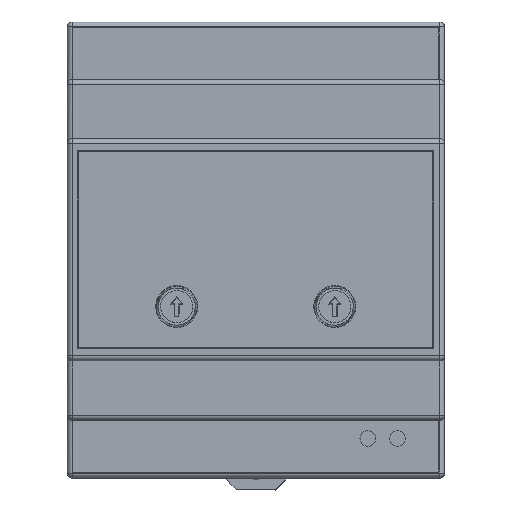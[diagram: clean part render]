
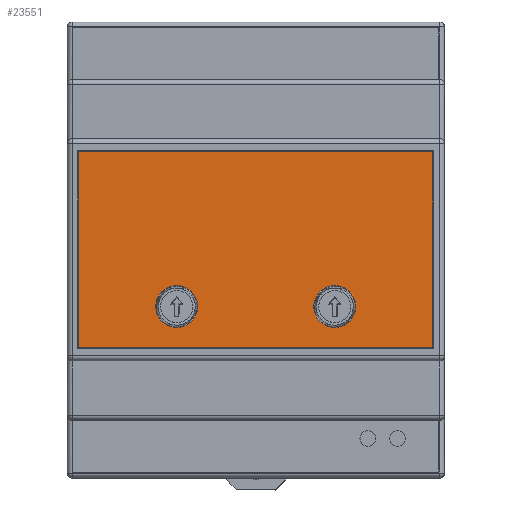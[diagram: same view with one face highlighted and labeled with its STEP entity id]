
A CAD part, top view. The second image highlights one B-rep face of the part: STEP entity #23551.
In plain terms, the highlighted planar face has unit normal (0, 0, 1).
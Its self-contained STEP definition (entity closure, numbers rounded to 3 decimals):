
#39 = CIRCLE ( 'NONE', #3892, 4.25 ) ;
#499 = CIRCLE ( 'NONE', #56372, 4.25 ) ;
#1184 = ORIENTED_EDGE ( 'NONE', *, *, #49817, .T. ) ;
#2115 = LINE ( 'NONE', #16640, #28892 ) ;
#3892 = AXIS2_PLACEMENT_3D ( 'NONE', #12885, #46013, #8937 ) ;
#8304 = VERTEX_POINT ( 'NONE', #44589 ) ;
#8937 = DIRECTION ( 'NONE',  ( 1., 0., 0. ) ) ;
#9464 = CARTESIAN_POINT ( 'NONE',  ( -35.91, -19.823, 57.102 ) ) ;
#9544 = CIRCLE ( 'NONE', #24031, 4.25 ) ;
#10236 = LINE ( 'NONE', #56617, #57075 ) ;
#10529 = DIRECTION ( 'NONE',  ( -1., 0., 0. ) ) ;
#11342 = DIRECTION ( 'NONE',  ( -1., 0., 0. ) ) ;
#12885 = CARTESIAN_POINT ( 'NONE',  ( 15.94, -11.504, 57.102 ) ) ;
#13672 = CARTESIAN_POINT ( 'NONE',  ( -35.91, 19.833, 57.102 ) ) ;
#13674 = ORIENTED_EDGE ( 'NONE', *, *, #39230, .T. ) ;
#14772 = CARTESIAN_POINT ( 'NONE',  ( 0., 0., 57.102 ) ) ;
#14873 = DIRECTION ( 'NONE',  ( 1., 0., 0. ) ) ;
#15502 = CARTESIAN_POINT ( 'NONE',  ( 15.94, -11.504, 57.102 ) ) ;
#15710 = VERTEX_POINT ( 'NONE', #38987 ) ;
#16235 = ORIENTED_EDGE ( 'NONE', *, *, #49489, .T. ) ;
#16640 = CARTESIAN_POINT ( 'NONE',  ( -35.91, 19.833, 57.102 ) ) ;
#19027 = FACE_BOUND ( 'NONE', #20614, .T. ) ;
#19053 = ORIENTED_EDGE ( 'NONE', *, *, #34879, .T. ) ;
#19956 = CARTESIAN_POINT ( 'NONE',  ( 11.69, -11.504, 57.102 ) ) ;
#20031 = ORIENTED_EDGE ( 'NONE', *, *, #45333, .T. ) ;
#20105 = VERTEX_POINT ( 'NONE', #27313 ) ;
#20563 = DIRECTION ( 'NONE',  ( 0., -1., 0. ) ) ;
#20614 = EDGE_LOOP ( 'NONE', ( #16235, #20031 ) ) ;
#21768 = CIRCLE ( 'NONE', #55353, 4.25 ) ;
#22210 = CARTESIAN_POINT ( 'NONE',  ( 20.19, -11.504, 57.102 ) ) ;
#23551 = ADVANCED_FACE ( 'NONE', ( #19027, #55097, #37415 ), #37695, .T. ) ;
#23997 = LINE ( 'NONE', #32404, #36373 ) ;
#24031 = AXIS2_PLACEMENT_3D ( 'NONE', #15502, #32725, #33887 ) ;
#24277 = DIRECTION ( 'NONE',  ( 0., 1., 0. ) ) ;
#25835 = CARTESIAN_POINT ( 'NONE',  ( -16.06, -11.504, 57.102 ) ) ;
#27313 = CARTESIAN_POINT ( 'NONE',  ( -35.91, -19.823, 57.102 ) ) ;
#28892 = VECTOR ( 'NONE', #20563, 1000. ) ;
#29553 = VERTEX_POINT ( 'NONE', #19956 ) ;
#30821 = ORIENTED_EDGE ( 'NONE', *, *, #43037, .T. ) ;
#32368 = VERTEX_POINT ( 'NONE', #41440 ) ;
#32404 = CARTESIAN_POINT ( 'NONE',  ( 35.8, -19.823, 57.102 ) ) ;
#32462 = DIRECTION ( 'NONE',  ( 0., 0., -1. ) ) ;
#32725 = DIRECTION ( 'NONE',  ( 0., 0., -1. ) ) ;
#33887 = DIRECTION ( 'NONE',  ( -1., 0., 0. ) ) ;
#34772 = ORIENTED_EDGE ( 'NONE', *, *, #59286, .T. ) ;
#34879 = EDGE_CURVE ( 'NONE', #40294, #50477, #10236, .T. ) ;
#36373 = VECTOR ( 'NONE', #24277, 1000. ) ;
#37415 = FACE_OUTER_BOUND ( 'NONE', #45635, .T. ) ;
#37560 = AXIS2_PLACEMENT_3D ( 'NONE', #14772, #50599, #56335 ) ;
#37695 = PLANE ( 'NONE',  #37560 ) ;
#38987 = CARTESIAN_POINT ( 'NONE',  ( -20.31, -11.504, 57.102 ) ) ;
#39230 = EDGE_CURVE ( 'NONE', #20105, #8304, #41423, .T. ) ;
#40294 = VERTEX_POINT ( 'NONE', #53748 ) ;
#40920 = CARTESIAN_POINT ( 'NONE',  ( -16.06, -11.504, 57.102 ) ) ;
#41423 = LINE ( 'NONE', #9464, #57816 ) ;
#41440 = CARTESIAN_POINT ( 'NONE',  ( -11.81, -11.504, 57.102 ) ) ;
#42149 = VERTEX_POINT ( 'NONE', #22210 ) ;
#42273 = ORIENTED_EDGE ( 'NONE', *, *, #59522, .T. ) ;
#43037 = EDGE_CURVE ( 'NONE', #8304, #40294, #23997, .T. ) ;
#44589 = CARTESIAN_POINT ( 'NONE',  ( 35.8, -19.823, 57.102 ) ) ;
#45333 = EDGE_CURVE ( 'NONE', #42149, #29553, #39, .T. ) ;
#45635 = EDGE_LOOP ( 'NONE', ( #13674, #30821, #19053, #1184 ) ) ;
#46013 = DIRECTION ( 'NONE',  ( 0., 0., -1. ) ) ;
#49489 = EDGE_CURVE ( 'NONE', #29553, #42149, #9544, .T. ) ;
#49817 = EDGE_CURVE ( 'NONE', #50477, #20105, #2115, .T. ) ;
#50477 = VERTEX_POINT ( 'NONE', #13672 ) ;
#50599 = DIRECTION ( 'NONE',  ( 0., 0., 1. ) ) ;
#50795 = DIRECTION ( 'NONE',  ( 1., 0., 0. ) ) ;
#52557 = DIRECTION ( 'NONE',  ( 0., 0., -1. ) ) ;
#53748 = CARTESIAN_POINT ( 'NONE',  ( 35.8, 19.833, 57.102 ) ) ;
#55097 = FACE_BOUND ( 'NONE', #56969, .T. ) ;
#55353 = AXIS2_PLACEMENT_3D ( 'NONE', #40920, #32462, #50795 ) ;
#56335 = DIRECTION ( 'NONE',  ( 1., 0., 0. ) ) ;
#56372 = AXIS2_PLACEMENT_3D ( 'NONE', #25835, #52557, #11342 ) ;
#56617 = CARTESIAN_POINT ( 'NONE',  ( 35.8, 19.833, 57.102 ) ) ;
#56969 = EDGE_LOOP ( 'NONE', ( #42273, #34772 ) ) ;
#57075 = VECTOR ( 'NONE', #10529, 1000. ) ;
#57816 = VECTOR ( 'NONE', #14873, 1000. ) ;
#59286 = EDGE_CURVE ( 'NONE', #32368, #15710, #21768, .T. ) ;
#59522 = EDGE_CURVE ( 'NONE', #15710, #32368, #499, .T. ) ;
